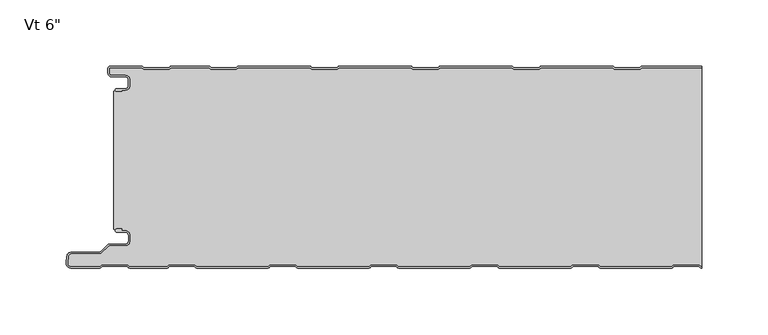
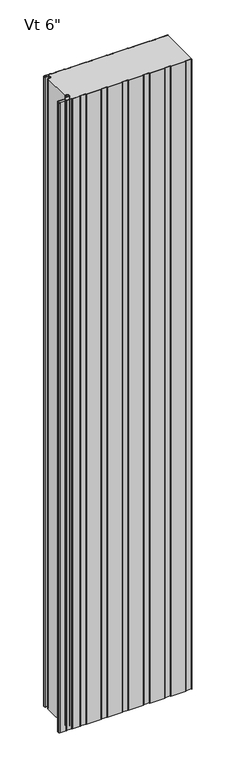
"""IFC4 building model written with IfcOpenShell, lengths in millimetres: plate geometry."""

from ifc_helpers import new_model, si_unit, point, frame, frame_2d, origin, origin_with_axes, place, context, project, spatial, polyline, circle_curve, trimmed, segment, composite_curve, outline, extrude, source, transform, mapped, element, save
from ifc_brep_helpers import plane_surface, cylinder_surface, revolved_surface, advanced_brep


def plate_f4efb7f9(model_context):
    return source(origin(), model_context, "Body", "SolidModel", [
        advanced_brep(
        [(-219.9686911, -17.0015243, 2400.0), (-220.9686883, -18.0015275, 2400.0), (-219.9686911, -19.0015188, 2400.0), (-215.9684874, -19.0015188, 2400.0), (-215.9684874, -18.0015243, 2400.0), (-213.2762776, -18.0015243, 2400.0), (-209.9762819, -14.7015286, 2400.0), (-209.9762819, -10.3015374, 2400.0), (-213.2762774, -7.0015419, 2400.0), (-223.6962563, -7.0015419, 2400.0), (-225.4662505, -5.2315477, 2400.0), (-225.4662505, -1.0, 2400.0), (-200.9659739, -1.0, 2400.0), (-199.5803313, -2.2002391, 2400.0), (-180.205165, -2.2002391, 2400.0), (-178.819532, -1.0000084, 2400.0), (-150.1661166, -1.0000084, 2400.0), (-148.7804837, -2.2002391, 2400.0), (-129.4053174, -2.2002391, 2400.0), (-128.0196844, -1.0000084, 2400.0), (-73.966269, -1.0000084, 2400.0), (-72.5806361, -2.2002391, 2400.0), (-53.2054698, -2.2002391, 2400.0), (-51.8198368, -1.0000084, 2400.0), (2.2335786, -1.0000084, 2400.0), (3.6192115, -2.2002391, 2400.0), (22.9943778, -2.2002391, 2400.0), (24.3800108, -1.0000084, 2400.0), (78.4334262, -1.0000084, 2400.0), (79.8190591, -2.2002391, 2400.0), (99.1942254, -2.2002391, 2400.0), (100.5798584, -1.0000084, 2400.0), (154.6332738, -1.0000084, 2400.0), (156.0189067, -2.2002391, 2400.0), (175.394073, -2.2002391, 2400.0), (176.779706, -1.0000084, 2400.0), (221.9999998, -1.0000084, 2400.0), (221.9999998, -8.4e-06, 2400.0), (176.9288571, -8.4e-06, 2400.0), (176.0122402, -0.3417969, 2400.0), (175.0211926, -1.2002391, 2400.0), (156.3917872, -1.2002391, 2400.0), (155.4007395, -0.3417969, 2400.0), (154.4841226, -8.4e-06, 2400.0), (100.7290095, -8.4e-06, 2400.0), (99.8123926, -0.3417969, 2400.0), (98.821345, -1.2002391, 2400.0), (80.1919396, -1.2002391, 2400.0), (79.2008919, -0.3417969, 2400.0), (78.284275, -8.4e-06, 2400.0), (24.5291619, -8.4e-06, 2400.0), (23.612545, -0.3417969, 2400.0), (22.6214974, -1.2002391, 2400.0), (3.992092, -1.2002391, 2400.0), (3.0010443, -0.3417969, 2400.0), (2.0844274, -8.4e-06, 2400.0), (-51.6706857, -8.4e-06, 2400.0), (-52.5873026, -0.3417969, 2400.0), (-53.5783502, -1.2002391, 2400.0), (-72.2077556, -1.2002391, 2400.0), (-73.1988033, -0.3417969, 2400.0), (-74.1154202, -8.4e-06, 2400.0), (-127.8705333, -8.4e-06, 2400.0), (-128.7871502, -0.3417969, 2400.0), (-129.7781978, -1.2002391, 2400.0), (-148.4076032, -1.2002391, 2400.0), (-149.3986509, -0.3417969, 2400.0), (-150.3152678, -8.4e-06, 2400.0), (-178.6703809, -8.4e-06, 2400.0), (-179.5869978, -0.3417969, 2400.0), (-180.5780454, -1.2002391, 2400.0), (-199.2074508, -1.2002391, 2400.0), (-200.1984985, -0.3417969, 2400.0), (-201.1152068, -8.4e-06, 2400.0), (-225.0662544, 0.0, 2400.0), (-226.4662505, -1.3999962, 2400.0), (-226.4662505, -5.2315477, 2400.0), (-223.6962563, -8.0015419, 2400.0), (-213.2762774, -8.0015419, 2400.0), (-210.9762819, -10.3015374, 2400.0), (-210.9762819, -14.7015286, 2400.0), (-213.2762776, -17.0015243, 2400.0), (-219.9686911, -17.0015243, 0.0), (-213.2762776, -17.0015243, 0.0), (-210.9762819, -14.7015286, 0.0), (-210.9762819, -10.3015374, 0.0), (-213.2762774, -8.0015419, 0.0), (-223.6962563, -8.0015419, 0.0), (-226.4662505, -5.2315477, 0.0), (-226.4662505, -1.3999962, 0.0), (-225.0662544, 0.0, 0.0), (-201.1151154, 0.0, 0.0), (-200.1984985, -0.3417969, 0.0), (-199.2074508, -1.2002391, 0.0), (-180.5780454, -1.2002391, 0.0), (-179.5869978, -0.3417969, 0.0), (-178.6703809, -8.4e-06, 0.0), (-150.3152678, -8.4e-06, 0.0), (-149.3986509, -0.3417969, 0.0), (-148.4076032, -1.2002391, 0.0), (-129.7781978, -1.2002391, 0.0), (-128.7871502, -0.3417969, 0.0), (-127.8705333, -8.4e-06, 0.0), (-74.1154202, -8.4e-06, 0.0), (-73.1988033, -0.3417969, 0.0), (-72.2077556, -1.2002391, 0.0), (-53.5783502, -1.2002391, 0.0), (-52.5873026, -0.3417969, 0.0), (-51.6706857, -8.4e-06, 0.0), (2.0844274, -8.4e-06, 0.0), (3.0010443, -0.3417969, 0.0), (3.992092, -1.2002391, 0.0), (22.6214974, -1.2002391, 0.0), (23.612545, -0.3417969, 0.0), (24.5291619, -8.4e-06, 0.0), (78.284275, -8.4e-06, 0.0), (79.2008919, -0.3417969, 0.0), (80.1919396, -1.2002391, 0.0), (98.821345, -1.2002391, 0.0), (99.8123926, -0.3417969, 0.0), (100.7290095, -8.4e-06, 0.0), (154.4841226, -8.4e-06, 0.0), (155.4007395, -0.3417969, 0.0), (156.3917872, -1.2002391, 0.0), (175.0211926, -1.2002391, 0.0), (176.0122402, -0.3417969, 0.0), (176.9288571, -8.4e-06, 0.0), (221.9999998, -8.4e-06, 0.0), (221.9999998, -1.0000084, 0.0), (176.779706, -1.0000084, 0.0), (175.394073, -2.2002391, 0.0), (156.0189067, -2.2002391, 0.0), (154.6332738, -1.0000084, 0.0), (100.5798584, -1.0000084, 0.0), (99.1942254, -2.2002391, 0.0), (79.8190591, -2.2002391, 0.0), (78.4334262, -1.0000084, 0.0), (24.3800108, -1.0000084, 0.0), (22.9943778, -2.2002391, 0.0), (3.6192115, -2.2002391, 0.0), (2.2335786, -1.0000084, 0.0), (-51.8198368, -1.0000084, 0.0), (-53.2054698, -2.2002391, 0.0), (-72.5806361, -2.2002391, 0.0), (-73.966269, -1.0000084, 0.0), (-128.0196844, -1.0000084, 0.0), (-129.4053174, -2.2002391, 0.0), (-148.7804837, -2.2002391, 0.0), (-150.1661166, -1.0000084, 0.0), (-178.819532, -1.0000084, 0.0), (-180.205165, -2.2002391, 0.0), (-199.5803313, -2.2002391, 0.0), (-200.9659739, -1.0, 0.0), (-225.4662505, -1.0, 0.0), (-225.4662505, -5.2315477, 0.0), (-223.6962563, -7.0015419, 0.0), (-213.2762774, -7.0015419, 0.0), (-209.9762819, -10.3015374, 0.0), (-209.9762819, -14.7015286, 0.0), (-213.2762776, -18.0015243, 0.0), (-215.9684874, -18.0015243, 0.0), (-215.9684874, -19.0015188, 0.0), (-219.9686911, -19.0015188, 0.0), (-220.9686883, -18.0015275, 0.0)],
        [
            (0, 1, circle_curve(frame((-219.9686911, -18.0015215, 2400.0), z_axis=(0.0, 0.0, 1.0), x_axis=(1.0, 0.0, 0.0)), 0.9999973)),
            (1, 2, circle_curve(frame((-219.9686911, -18.0015216, 2400.0), z_axis=(0.0, 0.0, 1.0), x_axis=(1.0, 0.0, 0.0)), 0.9999972)),
            (2, 3),
            (3, 4),
            (4, 5),
            (5, 6, circle_curve(frame((-213.2762776, -14.7015286, 2400.0), z_axis=(0.0, 0.0, 1.0), x_axis=(1.0, 0.0, 0.0)), 3.2999957)),
            (6, 7),
            (7, 8, circle_curve(frame((-213.2762774, -10.3015374, 2400.0), z_axis=(0.0, 0.0, 1.0), x_axis=(1.0, 0.0, 0.0)), 3.2999955)),
            (8, 9),
            (9, 10, circle_curve(frame((-223.6962563, -5.2315477, 2400.0), z_axis=(0.0, 0.0, -1.0), x_axis=(1.0, 0.0, 0.0)), 1.7699942)),
            (10, 11),
            (11, 12),
            (12, 13),
            (13, 14),
            (14, 15),
            (15, 16),
            (16, 17),
            (17, 18),
            (18, 19),
            (19, 20),
            (20, 21),
            (21, 22),
            (22, 23),
            (23, 24),
            (24, 25),
            (25, 26),
            (26, 27),
            (27, 28),
            (28, 29),
            (29, 30),
            (30, 31),
            (31, 32),
            (32, 33),
            (33, 34),
            (34, 35),
            (35, 36),
            (36, 37),
            (37, 38),
            (38, 39, circle_curve(frame((176.9288571, -1.4000056, 2400.0), z_axis=(0.0, 0.0, 1.0), x_axis=(1.0, 0.0, 0.0)), 1.3999972)),
            (39, 40),
            (40, 41),
            (41, 42),
            (42, 43, circle_curve(frame((154.4841226, -1.4000056, 2400.0), z_axis=(0.0, 0.0, 1.0), x_axis=(1.0, 0.0, 0.0)), 1.3999972)),
            (43, 44),
            (44, 45, circle_curve(frame((100.7290095, -1.4000056, 2400.0), z_axis=(0.0, 0.0, 1.0), x_axis=(1.0, 0.0, 0.0)), 1.3999972)),
            (45, 46),
            (46, 47),
            (47, 48),
            (48, 49, circle_curve(frame((78.284275, -1.4000056, 2400.0), z_axis=(0.0, 0.0, 1.0), x_axis=(1.0, 0.0, 0.0)), 1.3999972)),
            (49, 50),
            (50, 51, circle_curve(frame((24.5291619, -1.4000056, 2400.0), z_axis=(0.0, 0.0, 1.0), x_axis=(1.0, 0.0, 0.0)), 1.3999972)),
            (51, 52),
            (52, 53),
            (53, 54),
            (54, 55, circle_curve(frame((2.0844274, -1.4000056, 2400.0), z_axis=(0.0, 0.0, 1.0), x_axis=(1.0, 0.0, 0.0)), 1.3999972)),
            (55, 56),
            (56, 57, circle_curve(frame((-51.6706857, -1.4000056, 2400.0), z_axis=(0.0, 0.0, 1.0), x_axis=(1.0, 0.0, 0.0)), 1.3999972)),
            (57, 58),
            (58, 59),
            (59, 60),
            (60, 61, circle_curve(frame((-74.1154202, -1.4000056, 2400.0), z_axis=(0.0, 0.0, 1.0), x_axis=(1.0, 0.0, 0.0)), 1.3999972)),
            (61, 62),
            (62, 63, circle_curve(frame((-127.8705333, -1.4000056, 2400.0), z_axis=(0.0, 0.0, 1.0), x_axis=(1.0, 0.0, 0.0)), 1.3999972)),
            (63, 64),
            (64, 65),
            (65, 66),
            (66, 67, circle_curve(frame((-150.3152678, -1.4000056, 2400.0), z_axis=(0.0, 0.0, 1.0), x_axis=(1.0, 0.0, 0.0)), 1.3999972)),
            (67, 68),
            (68, 69, circle_curve(frame((-178.6703809, -1.4000056, 2400.0), z_axis=(0.0, 0.0, 1.0), x_axis=(1.0, 0.0, 0.0)), 1.3999972)),
            (69, 70),
            (70, 71),
            (71, 72),
            (72, 73, circle_curve(frame((-201.1151154, -1.4000056, 2400.0), z_axis=(0.0, 0.0, 1.0), x_axis=(1.0, 0.0, 0.0)), 1.3999972)),
            (73, 74),
            (74, 75, circle_curve(frame((-225.0662544, -1.3999962, 2400.0), z_axis=(0.0, 0.0, 1.0), x_axis=(1.0, 0.0, 0.0)), 1.3999962)),
            (75, 76),
            (76, 77, circle_curve(frame((-223.6962563, -5.2315477, 2400.0), z_axis=(0.0, 0.0, 1.0), x_axis=(1.0, 0.0, 0.0)), 2.7699942)),
            (77, 78),
            (78, 79, circle_curve(frame((-213.2762774, -10.3015374, 2400.0), z_axis=(0.0, 0.0, -1.0), x_axis=(1.0, 0.0, 0.0)), 2.2999955)),
            (79, 80),
            (80, 81, circle_curve(frame((-213.2762776, -14.7015286, 2400.0), z_axis=(0.0, 0.0, -1.0), x_axis=(1.0, 0.0, 0.0)), 2.2999957)),
            (81, 0),
            (82, 83),
            (83, 84, circle_curve(frame((-213.2762776, -14.7015286, 0.0), z_axis=(0.0, 0.0, 1.0), x_axis=(1.0, 0.0, 0.0)), 2.2999957)),
            (84, 85),
            (85, 86, circle_curve(frame((-213.2762774, -10.3015374, 0.0), z_axis=(0.0, 0.0, 1.0), x_axis=(1.0, 0.0, 0.0)), 2.2999955)),
            (86, 87),
            (87, 88, circle_curve(frame((-223.6962563, -5.2315477, 0.0), z_axis=(0.0, 0.0, -1.0), x_axis=(1.0, 0.0, 0.0)), 2.7699942)),
            (88, 89),
            (89, 90, circle_curve(frame((-225.0662544, -1.3999962, 0.0), z_axis=(0.0, 0.0, -1.0), x_axis=(1.0, 0.0, 0.0)), 1.3999962)),
            (90, 91),
            (91, 92, circle_curve(frame((-201.1151154, -1.4000056, 0.0), z_axis=(0.0, 0.0, -1.0), x_axis=(1.0, 0.0, 0.0)), 1.3999972)),
            (92, 93),
            (93, 94),
            (94, 95),
            (95, 96, circle_curve(frame((-178.6703809, -1.4000056, 0.0), z_axis=(0.0, 0.0, -1.0), x_axis=(1.0, 0.0, 0.0)), 1.3999972)),
            (96, 97),
            (97, 98, circle_curve(frame((-150.3152678, -1.4000056, 0.0), z_axis=(0.0, 0.0, -1.0), x_axis=(1.0, 0.0, 0.0)), 1.3999972)),
            (98, 99),
            (99, 100),
            (100, 101),
            (101, 102, circle_curve(frame((-127.8705333, -1.4000056, 0.0), z_axis=(0.0, 0.0, -1.0), x_axis=(1.0, 0.0, 0.0)), 1.3999972)),
            (102, 103),
            (103, 104, circle_curve(frame((-74.1154202, -1.4000056, 0.0), z_axis=(0.0, 0.0, -1.0), x_axis=(1.0, 0.0, 0.0)), 1.3999972)),
            (104, 105),
            (105, 106),
            (106, 107),
            (107, 108, circle_curve(frame((-51.6706857, -1.4000056, 0.0), z_axis=(0.0, 0.0, -1.0), x_axis=(1.0, 0.0, 0.0)), 1.3999972)),
            (108, 109),
            (109, 110, circle_curve(frame((2.0844274, -1.4000056, 0.0), z_axis=(0.0, 0.0, -1.0), x_axis=(1.0, 0.0, 0.0)), 1.3999972)),
            (110, 111),
            (111, 112),
            (112, 113),
            (113, 114, circle_curve(frame((24.5291619, -1.4000056, 0.0), z_axis=(0.0, 0.0, -1.0), x_axis=(1.0, 0.0, 0.0)), 1.3999972)),
            (114, 115),
            (115, 116, circle_curve(frame((78.284275, -1.4000056, 0.0), z_axis=(0.0, 0.0, -1.0), x_axis=(1.0, 0.0, 0.0)), 1.3999972)),
            (116, 117),
            (117, 118),
            (118, 119),
            (119, 120, circle_curve(frame((100.7290095, -1.4000056, 0.0), z_axis=(0.0, 0.0, -1.0), x_axis=(1.0, 0.0, 0.0)), 1.3999972)),
            (120, 121),
            (121, 122, circle_curve(frame((154.4841226, -1.4000056, 0.0), z_axis=(0.0, 0.0, -1.0), x_axis=(1.0, 0.0, 0.0)), 1.3999972)),
            (122, 123),
            (123, 124),
            (124, 125),
            (125, 126, circle_curve(frame((176.9288571, -1.4000056, 0.0), z_axis=(0.0, 0.0, -1.0), x_axis=(1.0, 0.0, 0.0)), 1.3999972)),
            (126, 127),
            (127, 128),
            (128, 129),
            (129, 130),
            (130, 131),
            (131, 132),
            (132, 133),
            (133, 134),
            (134, 135),
            (135, 136),
            (136, 137),
            (137, 138),
            (138, 139),
            (139, 140),
            (140, 141),
            (141, 142),
            (142, 143),
            (143, 144),
            (144, 145),
            (145, 146),
            (146, 147),
            (147, 148),
            (148, 149),
            (149, 150),
            (150, 151),
            (151, 152),
            (152, 153),
            (153, 154),
            (154, 155, circle_curve(frame((-223.6962563, -5.2315477, 0.0), z_axis=(0.0, 0.0, 1.0), x_axis=(1.0, 0.0, 0.0)), 1.7699942)),
            (155, 156),
            (156, 157, circle_curve(frame((-213.2762774, -10.3015374, 0.0), z_axis=(0.0, 0.0, -1.0), x_axis=(1.0, 0.0, 0.0)), 3.2999955)),
            (157, 158),
            (158, 159, circle_curve(frame((-213.2762776, -14.7015286, 0.0), z_axis=(0.0, 0.0, -1.0), x_axis=(1.0, 0.0, 0.0)), 3.2999957)),
            (159, 160),
            (160, 161),
            (161, 162),
            (162, 163, circle_curve(frame((-219.9686911, -18.0015216, 0.0), z_axis=(0.0, 0.0, -1.0), x_axis=(1.0, 0.0, 0.0)), 0.9999972)),
            (163, 82, circle_curve(frame((-219.9686911, -18.0015215, 0.0), z_axis=(0.0, 0.0, -1.0), x_axis=(1.0, 0.0, 0.0)), 0.9999973)),
            (36, 128),
            (127, 37),
            (81, 83),
            (82, 0),
            (80, 84),
            (79, 85),
            (78, 86),
            (77, 87),
            (76, 88),
            (75, 89),
            (74, 90),
            (73, 91),
            (72, 92),
            (71, 93),
            (70, 94),
            (69, 95),
            (68, 96),
            (67, 97),
            (66, 98),
            (65, 99),
            (64, 100),
            (63, 101),
            (62, 102),
            (61, 103),
            (60, 104),
            (59, 105),
            (58, 106),
            (57, 107),
            (56, 108),
            (55, 109),
            (54, 110),
            (53, 111),
            (52, 112),
            (51, 113),
            (50, 114),
            (49, 115),
            (48, 116),
            (47, 117),
            (46, 118),
            (45, 119),
            (44, 120),
            (43, 121),
            (42, 122),
            (41, 123),
            (40, 124),
            (39, 125),
            (38, 126),
            (35, 129),
            (34, 130),
            (33, 131),
            (32, 132),
            (31, 133),
            (30, 134),
            (29, 135),
            (28, 136),
            (27, 137),
            (26, 138),
            (25, 139),
            (24, 140),
            (23, 141),
            (22, 142),
            (21, 143),
            (20, 144),
            (19, 145),
            (18, 146),
            (17, 147),
            (16, 148),
            (15, 149),
            (14, 150),
            (13, 151),
            (12, 152),
            (11, 153),
            (10, 154),
            (9, 155),
            (8, 156),
            (7, 157),
            (6, 158),
            (5, 159),
            (4, 160),
            (3, 161),
            (2, 162),
            (1, 163),
        ],
        [
            plane_surface(frame((286.0000002, -8.4e-06, 2400.0), z_axis=(0.0, 0.0, 1.0), x_axis=(0.0, 1.0, 0.0))),
            plane_surface(frame((286.0000002, -8.4e-06, 0.0), z_axis=(0.0, 0.0, -1.0), x_axis=(0.0, 1.0, 0.0))),
            plane_surface(frame((221.9999998, -162.4000084, 2400.0), z_axis=(1.0, 0.0, 0.0), x_axis=(0.0, 0.0, -1.0))),
            plane_surface(frame((-219.9686911, -17.0015243, 2400.0), z_axis=(0.0, 1.0, 0.0), x_axis=(0.0, 0.0, -1.0))),
            revolved_surface(polyline([(-210.97628189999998, -14.7015286, 0.0), (-210.97628189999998, -14.7015286, 2400.0)]), (-213.2762776, -14.7015286, 2400.0), (0.0, 0.0, -1.0)),
            plane_surface(frame((-210.9762819, -14.7015286, 2400.0), z_axis=(-1.0, 0.0, 0.0), x_axis=(0.0, 0.0, -1.0))),
            revolved_surface(polyline([(-210.9762819, -10.3015374, 0.0), (-210.9762819, -10.3015374, 2400.0)]), (-213.2762774, -10.3015374, 2400.0), (0.0, 0.0, -1.0)),
            plane_surface(frame((-213.2762774, -8.0015419, 2400.0), z_axis=(0.0, -1.0, 0.0), x_axis=(0.0, 0.0, -1.0))),
            cylinder_surface(frame((-223.6962563, -5.2315477, 2400.0), z_axis=(0.0, 0.0, 1.0), x_axis=(1.0, 0.0, 0.0)), 2.7699942),
            plane_surface(frame((-226.4662505, -5.2315477, 2400.0), z_axis=(-1.0, 0.0, 0.0), x_axis=(0.0, 0.0, -1.0))),
            cylinder_surface(frame((-225.0662544, -1.3999962, 2400.0), z_axis=(0.0, 0.0, 1.0), x_axis=(1.0, 0.0, 0.0)), 1.3999962),
            plane_surface(frame((-225.0662544, 0.0, 2400.0), z_axis=(0.0, 1.0, 0.0), x_axis=(0.0, 0.0, -1.0))),
            cylinder_surface(frame((-201.1151154, -1.4000056, 2400.0), z_axis=(0.0, 0.0, 1.0), x_axis=(1.0, 0.0, 0.0)), 1.3999972),
            plane_surface(frame((-200.1984985, -0.3417969, 2400.0), z_axis=(0.6547276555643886, 0.755864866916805, 0.0), x_axis=(0.0, 0.0, -1.0))),
            plane_surface(frame((-189.8927481, -1.2002391, 2400.0), z_axis=(0.0, 1.0, 0.0), x_axis=(0.0, 0.0, -1.0))),
            plane_surface(frame((-180.5780454, -1.2002391, 2400.0), z_axis=(-0.6547276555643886, 0.755864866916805, 0.0), x_axis=(0.0, 0.0, -1.0))),
            cylinder_surface(frame((-178.6703809, -1.4000056, 2400.0), z_axis=(0.0, 0.0, 1.0), x_axis=(1.0, 0.0, 0.0)), 1.3999972),
            plane_surface(frame((-178.6703809, -8.4e-06, 2400.0), z_axis=(0.0, 1.0, 0.0), x_axis=(0.0, 0.0, -1.0))),
            cylinder_surface(frame((-150.3152678, -1.4000056, 2400.0), z_axis=(0.0, 0.0, 1.0), x_axis=(1.0, 0.0, 0.0)), 1.3999972),
            plane_surface(frame((-149.3986509, -0.3417969, 2400.0), z_axis=(0.6547276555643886, 0.755864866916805, 0.0), x_axis=(0.0, 0.0, -1.0))),
            plane_surface(frame((-139.0929005, -1.2002391, 2400.0), z_axis=(0.0, 1.0, 0.0), x_axis=(0.0, 0.0, -1.0))),
            plane_surface(frame((-129.7781978, -1.2002391, 2400.0), z_axis=(-0.6547276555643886, 0.755864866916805, 0.0), x_axis=(0.0, 0.0, -1.0))),
            cylinder_surface(frame((-127.8705333, -1.4000056, 2400.0), z_axis=(0.0, 0.0, 1.0), x_axis=(1.0, 0.0, 0.0)), 1.3999972),
            plane_surface(frame((-127.8705333, -8.4e-06, 2400.0), z_axis=(0.0, 1.0, 0.0), x_axis=(0.0, 0.0, -1.0))),
            cylinder_surface(frame((-74.1154202, -1.4000056, 2400.0), z_axis=(0.0, 0.0, 1.0), x_axis=(1.0, 0.0, 0.0)), 1.3999972),
            plane_surface(frame((-73.1988033, -0.3417969, 2400.0), z_axis=(0.6547276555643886, 0.755864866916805, 0.0), x_axis=(0.0, 0.0, -1.0))),
            plane_surface(frame((-62.8930529, -1.2002391, 2400.0), z_axis=(0.0, 1.0, 0.0), x_axis=(0.0, 0.0, -1.0))),
            plane_surface(frame((-53.5783502, -1.2002391, 2400.0), z_axis=(-0.6547276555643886, 0.755864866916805, 0.0), x_axis=(0.0, 0.0, -1.0))),
            cylinder_surface(frame((-51.6706857, -1.4000056, 2400.0), z_axis=(0.0, 0.0, 1.0), x_axis=(1.0, 0.0, 0.0)), 1.3999972),
            plane_surface(frame((-51.6706857, -8.4e-06, 2400.0), z_axis=(0.0, 1.0, 0.0), x_axis=(0.0, 0.0, -1.0))),
            cylinder_surface(frame((2.0844274, -1.4000056, 2400.0), z_axis=(0.0, 0.0, 1.0), x_axis=(1.0, 0.0, 0.0)), 1.3999972),
            plane_surface(frame((3.0010443, -0.3417969, 2400.0), z_axis=(0.6547276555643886, 0.755864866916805, 0.0), x_axis=(0.0, 0.0, -1.0))),
            plane_surface(frame((13.3067947, -1.2002391, 2400.0), z_axis=(0.0, 1.0, 0.0), x_axis=(0.0, 0.0, -1.0))),
            plane_surface(frame((22.6214974, -1.2002391, 2400.0), z_axis=(-0.6547276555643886, 0.755864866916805, 0.0), x_axis=(0.0, 0.0, -1.0))),
            cylinder_surface(frame((24.5291619, -1.4000056, 2400.0), z_axis=(0.0, 0.0, 1.0), x_axis=(1.0, 0.0, 0.0)), 1.3999972),
            plane_surface(frame((24.5291619, -8.4e-06, 2400.0), z_axis=(0.0, 1.0, 0.0), x_axis=(0.0, 0.0, -1.0))),
            cylinder_surface(frame((78.284275, -1.4000056, 2400.0), z_axis=(0.0, 0.0, 1.0), x_axis=(1.0, 0.0, 0.0)), 1.3999972),
            plane_surface(frame((79.2008919, -0.3417969, 2400.0), z_axis=(0.6547276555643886, 0.755864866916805, 0.0), x_axis=(0.0, 0.0, -1.0))),
            plane_surface(frame((89.5066423, -1.2002391, 2400.0), z_axis=(0.0, 1.0, 0.0), x_axis=(0.0, 0.0, -1.0))),
            plane_surface(frame((98.821345, -1.2002391, 2400.0), z_axis=(-0.6547276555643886, 0.755864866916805, 0.0), x_axis=(0.0, 0.0, -1.0))),
            cylinder_surface(frame((100.7290095, -1.4000056, 2400.0), z_axis=(0.0, 0.0, 1.0), x_axis=(1.0, 0.0, 0.0)), 1.3999972),
            plane_surface(frame((100.7290095, -8.4e-06, 2400.0), z_axis=(0.0, 1.0, 0.0), x_axis=(0.0, 0.0, -1.0))),
            cylinder_surface(frame((154.4841226, -1.4000056, 2400.0), z_axis=(0.0, 0.0, 1.0), x_axis=(1.0, 0.0, 0.0)), 1.3999972),
            plane_surface(frame((155.4007395, -0.3417969, 2400.0), z_axis=(0.6547276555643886, 0.755864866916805, 0.0), x_axis=(0.0, 0.0, -1.0))),
            plane_surface(frame((165.7064899, -1.2002391, 2400.0), z_axis=(0.0, 1.0, 0.0), x_axis=(0.0, 0.0, -1.0))),
            plane_surface(frame((175.0211926, -1.2002391, 2400.0), z_axis=(-0.6547276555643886, 0.755864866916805, 0.0), x_axis=(0.0, 0.0, -1.0))),
            cylinder_surface(frame((176.9288571, -1.4000056, 2400.0), z_axis=(0.0, 0.0, 1.0), x_axis=(1.0, 0.0, 0.0)), 1.3999972),
            plane_surface(frame((176.9288571, -8.4e-06, 2400.0), z_axis=(0.0, 1.0, 0.0), x_axis=(0.0, 0.0, -1.0))),
            plane_surface(frame((230.8331214, -1.0000084, 2400.0), z_axis=(0.0, -1.0, 0.0), x_axis=(0.0, 0.0, -1.0))),
            plane_surface(frame((176.779706, -1.0000084, 2400.0), z_axis=(0.6547276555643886, -0.755864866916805, 0.0), x_axis=(0.0, 0.0, -1.0))),
            plane_surface(frame((175.394073, -2.2002391, 2400.0), z_axis=(0.0, -1.0, 0.0), x_axis=(0.0, 0.0, -1.0))),
            plane_surface(frame((156.0189067, -2.2002391, 2400.0), z_axis=(-0.6547276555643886, -0.755864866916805, 0.0), x_axis=(0.0, 0.0, -1.0))),
            plane_surface(frame((154.6332738, -1.0000084, 2400.0), z_axis=(0.0, -1.0, 0.0), x_axis=(0.0, 0.0, -1.0))),
            plane_surface(frame((100.5798584, -1.0000084, 2400.0), z_axis=(0.6547276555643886, -0.755864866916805, 0.0), x_axis=(0.0, 0.0, -1.0))),
            plane_surface(frame((99.1942254, -2.2002391, 2400.0), z_axis=(0.0, -1.0, 0.0), x_axis=(0.0, 0.0, -1.0))),
            plane_surface(frame((79.8190591, -2.2002391, 2400.0), z_axis=(-0.6547276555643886, -0.755864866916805, 0.0), x_axis=(0.0, 0.0, -1.0))),
            plane_surface(frame((78.4334262, -1.0000084, 2400.0), z_axis=(0.0, -1.0, 0.0), x_axis=(0.0, 0.0, -1.0))),
            plane_surface(frame((24.3800108, -1.0000084, 2400.0), z_axis=(0.6547276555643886, -0.755864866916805, 0.0), x_axis=(0.0, 0.0, -1.0))),
            plane_surface(frame((22.9943778, -2.2002391, 2400.0), z_axis=(0.0, -1.0, 0.0), x_axis=(0.0, 0.0, -1.0))),
            plane_surface(frame((3.6192115, -2.2002391, 2400.0), z_axis=(-0.6547276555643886, -0.755864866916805, 0.0), x_axis=(0.0, 0.0, -1.0))),
            plane_surface(frame((2.2335786, -1.0000084, 2400.0), z_axis=(0.0, -1.0, 0.0), x_axis=(0.0, 0.0, -1.0))),
            plane_surface(frame((-51.8198368, -1.0000084, 2400.0), z_axis=(0.6547276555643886, -0.755864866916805, 0.0), x_axis=(0.0, 0.0, -1.0))),
            plane_surface(frame((-53.2054698, -2.2002391, 2400.0), z_axis=(0.0, -1.0, 0.0), x_axis=(0.0, 0.0, -1.0))),
            plane_surface(frame((-72.5806361, -2.2002391, 2400.0), z_axis=(-0.6547276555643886, -0.755864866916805, 0.0), x_axis=(0.0, 0.0, -1.0))),
            plane_surface(frame((-73.966269, -1.0000084, 2400.0), z_axis=(0.0, -1.0, 0.0), x_axis=(0.0, 0.0, -1.0))),
            plane_surface(frame((-128.0196844, -1.0000084, 2400.0), z_axis=(0.6547276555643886, -0.755864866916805, 0.0), x_axis=(0.0, 0.0, -1.0))),
            plane_surface(frame((-129.4053174, -2.2002391, 2400.0), z_axis=(0.0, -1.0, 0.0), x_axis=(0.0, 0.0, -1.0))),
            plane_surface(frame((-148.7804837, -2.2002391, 2400.0), z_axis=(-0.6547276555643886, -0.755864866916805, 0.0), x_axis=(0.0, 0.0, -1.0))),
            plane_surface(frame((-150.1661166, -1.0000084, 2400.0), z_axis=(0.0, -1.0, 0.0), x_axis=(0.0, 0.0, -1.0))),
            plane_surface(frame((-178.819532, -1.0000084, 2400.0), z_axis=(0.6547276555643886, -0.755864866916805, 0.0), x_axis=(0.0, 0.0, -1.0))),
            plane_surface(frame((-180.205165, -2.2002391, 2400.0), z_axis=(0.0, -1.0, 0.0), x_axis=(0.0, 0.0, -1.0))),
            plane_surface(frame((-199.5803313, -2.2002391, 2400.0), z_axis=(-0.6547276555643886, -0.755864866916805, 0.0), x_axis=(0.0, 0.0, -1.0))),
            plane_surface(frame((-200.9659739, -1.0, 2400.0), z_axis=(0.0, -1.0, 0.0), x_axis=(0.0, 0.0, -1.0))),
            plane_surface(frame((-225.4662505, -1.0, 2400.0), z_axis=(1.0, 0.0, 0.0), x_axis=(0.0, 0.0, -1.0))),
            revolved_surface(polyline([(-221.92626209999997, -5.2315477, 0.0), (-221.92626209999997, -5.2315477, 2400.0)]), (-223.6962563, -5.2315477, 2400.0), (0.0, 0.0, -1.0)),
            plane_surface(frame((-223.6962563, -7.0015419, 2400.0), z_axis=(0.0, 1.0, 0.0), x_axis=(0.0, 0.0, -1.0))),
            cylinder_surface(frame((-213.2762774, -10.3015374, 2400.0), z_axis=(0.0, 0.0, 1.0), x_axis=(1.0, 0.0, 0.0)), 3.2999955),
            plane_surface(frame((-209.9762819, -10.3015374, 2400.0), z_axis=(1.0, 0.0, 0.0), x_axis=(0.0, 0.0, -1.0))),
            cylinder_surface(frame((-213.2762776, -14.7015286, 2400.0), z_axis=(0.0, 0.0, 1.0), x_axis=(1.0, 0.0, 0.0)), 3.2999957),
            plane_surface(frame((-213.2762776, -18.0015243, 2400.0), z_axis=(0.0, -1.0, 0.0), x_axis=(0.0, 0.0, -1.0))),
            plane_surface(frame((-215.9684874, -18.0015243, 2400.0), z_axis=(1.0, 0.0, 0.0), x_axis=(0.0, 0.0, -1.0))),
            plane_surface(frame((-215.9684874, -19.0015188, 2400.0), z_axis=(0.0, -1.0, 0.0), x_axis=(0.0, 0.0, -1.0))),
            cylinder_surface(frame((-219.9686911, -18.0015216, 2400.0), z_axis=(0.0, 0.0, 1.0), x_axis=(1.0, 0.0, 0.0)), 0.9999972),
            cylinder_surface(frame((-219.9686911, -18.0015215, 2400.0), z_axis=(0.0, 0.0, 1.0), x_axis=(1.0, 0.0, 0.0)), 0.9999973),
        ],
        [
            (0, [[1, 2, 3, 4, 5, 6, 7, 8, 9, 10, 11, 12, 13, 14, 15, 16, 17, 18, 19, 20, 21, 22, 23, 24, 25, 26, 27, 28, 29, 30, 31, 32, 33, 34, 35, 36, 37, 38, 39, 40, 41, 42, 43, 44, 45, 46, 47, 48, 49, 50, 51, 52, 53, 54, 55, 56, 57, 58, 59, 60, 61, 62, 63, 64, 65, 66, 67, 68, 69, 70, 71, 72, 73, 74, 75, 76, 77, 78, 79, 80, 81, 82]]),
            (1, [[83, 84, 85, 86, 87, 88, 89, 90, 91, 92, 93, 94, 95, 96, 97, 98, 99, 100, 101, 102, 103, 104, 105, 106, 107, 108, 109, 110, 111, 112, 113, 114, 115, 116, 117, 118, 119, 120, 121, 122, 123, 124, 125, 126, 127, 128, 129, 130, 131, 132, 133, 134, 135, 136, 137, 138, 139, 140, 141, 142, 143, 144, 145, 146, 147, 148, 149, 150, 151, 152, 153, 154, 155, 156, 157, 158, 159, 160, 161, 162, 163, 164]]),
            (2, [[165, -128, 166, -37]]),
            (3, [[167, -83, 168, -82]]),
            (4, [[169, -84, -167, -81]]),
            (5, [[170, -85, -169, -80]]),
            (6, [[171, -86, -170, -79]]),
            (7, [[172, -87, -171, -78]]),
            (8, [[173, -88, -172, -77]]),
            (9, [[174, -89, -173, -76]]),
            (10, [[175, -90, -174, -75]]),
            (11, [[176, -91, -175, -74]]),
            (12, [[177, -92, -176, -73]]),
            (13, [[178, -93, -177, -72]]),
            (14, [[179, -94, -178, -71]]),
            (15, [[180, -95, -179, -70]]),
            (16, [[181, -96, -180, -69]]),
            (17, [[182, -97, -181, -68]]),
            (18, [[183, -98, -182, -67]]),
            (19, [[184, -99, -183, -66]]),
            (20, [[185, -100, -184, -65]]),
            (21, [[186, -101, -185, -64]]),
            (22, [[187, -102, -186, -63]]),
            (23, [[188, -103, -187, -62]]),
            (24, [[189, -104, -188, -61]]),
            (25, [[190, -105, -189, -60]]),
            (26, [[191, -106, -190, -59]]),
            (27, [[192, -107, -191, -58]]),
            (28, [[193, -108, -192, -57]]),
            (29, [[194, -109, -193, -56]]),
            (30, [[195, -110, -194, -55]]),
            (31, [[196, -111, -195, -54]]),
            (32, [[197, -112, -196, -53]]),
            (33, [[198, -113, -197, -52]]),
            (34, [[199, -114, -198, -51]]),
            (35, [[200, -115, -199, -50]]),
            (36, [[201, -116, -200, -49]]),
            (37, [[202, -117, -201, -48]]),
            (38, [[203, -118, -202, -47]]),
            (39, [[204, -119, -203, -46]]),
            (40, [[205, -120, -204, -45]]),
            (41, [[206, -121, -205, -44]]),
            (42, [[207, -122, -206, -43]]),
            (43, [[208, -123, -207, -42]]),
            (44, [[209, -124, -208, -41]]),
            (45, [[210, -125, -209, -40]]),
            (46, [[211, -126, -210, -39]]),
            (47, [[-38, -166, -127, -211]]),
            (48, [[-129, -165, -36, 212]]),
            (49, [[213, -130, -212, -35]]),
            (50, [[214, -131, -213, -34]]),
            (51, [[215, -132, -214, -33]]),
            (52, [[216, -133, -215, -32]]),
            (53, [[217, -134, -216, -31]]),
            (54, [[218, -135, -217, -30]]),
            (55, [[219, -136, -218, -29]]),
            (56, [[220, -137, -219, -28]]),
            (57, [[221, -138, -220, -27]]),
            (58, [[222, -139, -221, -26]]),
            (59, [[223, -140, -222, -25]]),
            (60, [[224, -141, -223, -24]]),
            (61, [[225, -142, -224, -23]]),
            (62, [[226, -143, -225, -22]]),
            (63, [[227, -144, -226, -21]]),
            (64, [[228, -145, -227, -20]]),
            (65, [[229, -146, -228, -19]]),
            (66, [[230, -147, -229, -18]]),
            (67, [[231, -148, -230, -17]]),
            (68, [[232, -149, -231, -16]]),
            (69, [[233, -150, -232, -15]]),
            (70, [[234, -151, -233, -14]]),
            (71, [[235, -152, -234, -13]]),
            (72, [[236, -153, -235, -12]]),
            (73, [[237, -154, -236, -11]]),
            (74, [[238, -155, -237, -10]]),
            (75, [[239, -156, -238, -9]]),
            (76, [[240, -157, -239, -8]]),
            (77, [[241, -158, -240, -7]]),
            (78, [[242, -159, -241, -6]]),
            (79, [[243, -160, -242, -5]]),
            (80, [[244, -161, -243, -4]]),
            (81, [[245, -162, -244, -3]]),
            (82, [[246, -163, -245, -2]]),
            (83, [[-168, -164, -246, -1]]),
        ],
    ),
        extrude(outline(composite_curve([segment(polyline([(-232.6415932, -152.3997462), (-254.4521175, -152.3997462)]), True, "CONTINUOUS"), segment(trimmed(circle_curve(frame_2d((-254.4521175, -148.8295069)), 3.5702393), [point((-254.4521175, -152.3997462))], [point((-258.0087619, -148.5182365))], False, "CARTESIAN"), True, "CONTINUOUS"), segment(polyline([(-258.0087619, -148.5182365), (-257.5690674, -143.4941899)]), True, "CONTINUOUS"), segment(trimmed(circle_curve(frame_2d((-253.9198391, -144.104991)), 3.6999926), [point((-257.5690674, -143.4941899))], [point((-253.9198391, -140.4049984))], False, "CARTESIAN"), True, "CONTINUOUS"), segment(polyline([(-253.9198391, -140.4049984), (-232.7773995, -140.4049984)]), True, "CONTINUOUS"), segment(trimmed(circle_curve(frame_2d((-232.7773995, -139.105001)), 1.2999974), [point((-232.7773995, -140.4049984))], [point((-231.8581626, -140.024238))], True, "CARTESIAN"), True, "CONTINUOUS"), segment(polyline([(-231.8581626, -140.024238), (-227.0297451, -135.1958205)]), True, "CONTINUOUS"), segment(trimmed(circle_curve(frame_2d((-225.1205606, -137.105005)), 2.6999946), [point((-227.0297451, -135.1958205))], [point((-225.1205606, -134.4050104))], False, "CARTESIAN"), True, "CONTINUOUS"), segment(polyline([(-225.1205606, -134.4050104), (-213.3096715, -134.4050104)]), True, "CONTINUOUS"), segment(trimmed(circle_curve(frame_2d((-213.3096715, -132.0550151)), 2.3499953), [point((-213.3096715, -134.4050104))], [point((-210.9596762, -132.0550151))], True, "CARTESIAN"), True, "CONTINUOUS"), segment(polyline([(-210.9596762, -132.0550151), (-210.9596762, -127.6550239)]), True, "CONTINUOUS"), segment(trimmed(circle_curve(frame_2d((-213.3096715, -127.6550239)), 2.3499953), [point((-210.9596762, -127.6550239))], [point((-213.3096715, -125.3050286))], True, "CARTESIAN"), True, "CONTINUOUS"), segment(polyline([(-213.3096715, -125.3050286), (-219.8289777, -125.3050286)]), True, "CONTINUOUS"), segment(trimmed(circle_curve(frame_2d((-219.7686906, -124.1065463)), 1.1999976), [point((-219.8289777, -125.3050286))], [point((-220.9683, -124.0760244))], False, "CARTESIAN"), True, "CONTINUOUS"), segment(trimmed(circle_curve(frame_2d((-219.7686906, -124.1065463)), 1.1999976), [point((-220.9683, -124.0760244))], [point((-219.767176, -122.9065497))], False, "CARTESIAN"), True, "CONTINUOUS"), segment(polyline([(-219.767176, -122.9065497), (-216.0087826, -122.9065497), (-216.0087826, -124.3050286), (-213.3096715, -124.3050286)]), True, "CONTINUOUS"), segment(trimmed(circle_curve(frame_2d((-213.3096715, -127.6550239)), 3.3499953), [point((-213.3096715, -124.3050286))], [point((-209.9596762, -127.6550239))], False, "CARTESIAN"), True, "CONTINUOUS"), segment(polyline([(-209.9596762, -127.6550239), (-209.9596762, -132.0550151)]), True, "CONTINUOUS"), segment(trimmed(circle_curve(frame_2d((-213.3096715, -132.0550151)), 3.3499953), [point((-209.9596762, -132.0550151))], [point((-213.3096715, -135.4050104))], False, "CARTESIAN"), True, "CONTINUOUS"), segment(polyline([(-213.3096715, -135.4050104), (-225.1205606, -135.4050104)]), True, "CONTINUOUS"), segment(trimmed(circle_curve(frame_2d((-225.1205606, -137.105005)), 1.6999946), [point((-225.1205606, -135.4050104))], [point((-226.3226383, -135.9029273))], True, "CARTESIAN"), True, "CONTINUOUS"), segment(polyline([(-226.3226383, -135.9029273), (-231.8247094, -141.4049984), (-253.9198391, -141.4049984)]), True, "CONTINUOUS"), segment(trimmed(circle_curve(frame_2d((-253.9198391, -144.104991)), 2.6999926), [point((-253.9198391, -141.4049984))], [point((-256.5765707, -143.6236004))], True, "CARTESIAN"), True, "CONTINUOUS"), segment(polyline([(-256.5765707, -143.6236004), (-257.0125697, -148.6054212)]), True, "CONTINUOUS"), segment(trimmed(circle_curve(frame_2d((-254.4521175, -148.8295069)), 2.5702393), [point((-257.0125697, -148.6054212))], [point((-254.4521175, -151.3997462))], True, "CARTESIAN"), True, "CONTINUOUS"), segment(polyline([(-254.4521175, -151.3997462), (-232.479096, -151.3997462), (-231.2791275, -150.1997777), (-211.559715, -150.1997777), (-210.3594843, -151.4000084), (-181.6793525, -151.4000084), (-180.4791218, -150.1997777), (-160.7597093, -150.1997777), (-159.5594786, -151.4000084), (-105.4793468, -151.4000084), (-104.2791161, -150.1997777), (-84.5597036, -150.1997777), (-83.3594729, -151.4000084), (-29.2793411, -151.4000084), (-28.0791104, -150.1997777), (-8.3596979, -150.1997777), (-7.1594672, -151.4000084), (46.9206646, -151.4000084), (48.1208953, -150.1997777), (67.8403078, -150.1997777), (69.0405385, -151.4000084), (123.1206703, -151.4000084), (124.320901, -150.1997777), (144.0403135, -150.1997777), (145.2405442, -151.4000084), (199.3206759, -151.4000084), (200.5209066, -150.1997777), (220.2403192, -150.1997777), (221.4405499, -151.4000084), (221.9999998, -151.4000084), (221.9999998, -152.4000084), (221.6098268, -152.4000084)]), True, "CONTINUOUS"), segment(trimmed(circle_curve(frame_2d((221.6021734, -151.0000321)), 1.3999972), [point((221.6098268, -152.4000084))], [point((220.5581226, -151.9327432))], False, "CARTESIAN"), True, "CONTINUOUS"), segment(polyline([(220.5581226, -151.9327432), (219.825157, -151.1997777), (200.9344878, -151.1997777), (200.2015432, -151.9327223)]), True, "CONTINUOUS"), segment(trimmed(circle_curve(frame_2d((199.1574924, -151.0000112)), 1.3999972), [point((200.2015432, -151.9327223))], [point((199.1574924, -152.4000084))], False, "CARTESIAN"), True, "CONTINUOUS"), segment(polyline([(199.1574924, -152.4000084), (145.4099792, -152.4000084)]), True, "CONTINUOUS"), segment(trimmed(circle_curve(frame_2d((145.4023258, -151.0000321)), 1.3999972), [point((145.4099792, -152.4000084))], [point((144.358275, -151.9327432))], False, "CARTESIAN"), True, "CONTINUOUS"), segment(polyline([(144.358275, -151.9327432), (143.6253094, -151.1997777), (124.7346402, -151.1997777), (124.0016956, -151.9327223)]), True, "CONTINUOUS"), segment(trimmed(circle_curve(frame_2d((122.9576448, -151.0000112)), 1.3999972), [point((124.0016956, -151.9327223))], [point((122.9576448, -152.4000084))], False, "CARTESIAN"), True, "CONTINUOUS"), segment(polyline([(122.9576448, -152.4000084), (69.2101316, -152.4000084)]), True, "CONTINUOUS"), segment(trimmed(circle_curve(frame_2d((69.2024782, -151.0000321)), 1.3999972), [point((69.2101316, -152.4000084))], [point((68.1584274, -151.9327432))], False, "CARTESIAN"), True, "CONTINUOUS"), segment(polyline([(68.1584274, -151.9327432), (67.4254618, -151.1997777), (48.5347926, -151.1997777), (47.801848, -151.9327223)]), True, "CONTINUOUS"), segment(trimmed(circle_curve(frame_2d((46.7577972, -151.0000112)), 1.3999972), [point((47.801848, -151.9327223))], [point((46.7577972, -152.4000084))], False, "CARTESIAN"), True, "CONTINUOUS"), segment(polyline([(46.7577972, -152.4000084), (-6.989716, -152.4000084)]), True, "CONTINUOUS"), segment(trimmed(circle_curve(frame_2d((-6.9973694, -151.0000321)), 1.3999972), [point((-6.989716, -152.4000084))], [point((-8.0414202, -151.9327432))], False, "CARTESIAN"), True, "CONTINUOUS"), segment(polyline([(-8.0414202, -151.9327432), (-8.7743858, -151.1997777), (-27.665055, -151.1997777), (-28.3979996, -151.9327223)]), True, "CONTINUOUS"), segment(trimmed(circle_curve(frame_2d((-29.4420504, -151.0000112)), 1.3999972), [point((-28.3979996, -151.9327223))], [point((-29.4420504, -152.4000084))], False, "CARTESIAN"), True, "CONTINUOUS"), segment(polyline([(-29.4420504, -152.4000084), (-83.1895636, -152.4000084)]), True, "CONTINUOUS"), segment(trimmed(circle_curve(frame_2d((-83.197217, -151.0000321)), 1.3999972), [point((-83.1895636, -152.4000084))], [point((-84.2412678, -151.9327432))], False, "CARTESIAN"), True, "CONTINUOUS"), segment(polyline([(-84.2412678, -151.9327432), (-84.9742334, -151.1997777), (-103.8649026, -151.1997777), (-104.5978472, -151.9327223)]), True, "CONTINUOUS"), segment(trimmed(circle_curve(frame_2d((-105.641898, -151.0000112)), 1.3999972), [point((-104.5978472, -151.9327223))], [point((-105.641898, -152.4000084))], False, "CARTESIAN"), True, "CONTINUOUS"), segment(polyline([(-105.641898, -152.4000084), (-159.3894112, -152.4000084)]), True, "CONTINUOUS"), segment(trimmed(circle_curve(frame_2d((-159.3970646, -151.0000321)), 1.3999972), [point((-159.3894112, -152.4000084))], [point((-160.4411154, -151.9327432))], False, "CARTESIAN"), True, "CONTINUOUS"), segment(polyline([(-160.4411154, -151.9327432), (-161.174081, -151.1997777), (-180.0647502, -151.1997777), (-180.7976948, -151.9327223)]), True, "CONTINUOUS"), segment(trimmed(circle_curve(frame_2d((-181.8417456, -151.0000112)), 1.3999972), [point((-180.7976948, -151.9327223))], [point((-181.8417456, -152.4000084))], False, "CARTESIAN"), True, "CONTINUOUS"), segment(polyline([(-181.8417456, -152.4000084), (-210.1892588, -152.4000084)]), True, "CONTINUOUS"), segment(trimmed(circle_curve(frame_2d((-210.1969122, -151.0000321)), 1.3999972), [point((-210.1892588, -152.4000084))], [point((-211.240963, -151.9327432))], False, "CARTESIAN"), True, "CONTINUOUS"), segment(polyline([(-211.240963, -151.9327432), (-211.9739286, -151.1997777), (-230.8649139, -151.1997777), (-231.5976402, -151.9325039)]), True, "CONTINUOUS"), segment(trimmed(circle_curve(frame_2d((-232.6415932, -150.9998801)), 1.3998661), [point((-231.5976402, -151.9325039))], [point((-232.6415932, -152.3997462))], False, "CARTESIAN"), True, "CONTINUOUS")], self_intersect=False)), origin_with_axes(), (0.0, 0.0, 1.0), 2400.0),
        extrude(outline(composite_curve([segment(polyline([(-220.9683, -124.0760244), (-221.9999998, -123.0443246), (-221.9999998, -19.0328392), (-220.9686882, -18.0015275)]), True, "CONTINUOUS"), segment(trimmed(circle_curve(frame_2d((-219.968691, -18.0015216)), 0.9999972), [point((-220.9686882, -18.0015275))], [point((-219.968691, -19.0015188))], True, "CARTESIAN"), True, "CONTINUOUS"), segment(polyline([(-219.968691, -19.0015188), (-215.9684874, -19.0015188), (-215.9684874, -18.0015243), (-213.2762776, -18.0015243)]), True, "CONTINUOUS"), segment(trimmed(circle_curve(frame_2d((-213.2762776, -14.7015286)), 3.2999957), [point((-213.2762776, -18.0015243))], [point((-209.9762819, -14.7015286))], True, "CARTESIAN"), True, "CONTINUOUS"), segment(polyline([(-209.9762819, -14.7015286), (-209.9762819, -10.3015374)]), True, "CONTINUOUS"), segment(trimmed(circle_curve(frame_2d((-213.2762777, -10.3015374)), 3.2999959), [point((-209.9762819, -10.3015374))], [point((-213.2762777, -7.0015415))], True, "CARTESIAN"), True, "CONTINUOUS"), segment(polyline([(-213.2762777, -7.0015415), (-223.6962563, -7.0015415)]), True, "CONTINUOUS"), segment(trimmed(circle_curve(frame_2d((-223.6962563, -5.2315473)), 1.7699942), [point((-223.6962563, -7.0015415))], [point((-225.4662505, -5.2315473))], False, "CARTESIAN"), True, "CONTINUOUS"), segment(polyline([(-225.4662505, -5.2315473), (-225.4662505, -1.0), (-200.9659738, -1.0), (-199.5803312, -2.2002391), (-180.2051649, -2.2002391), (-178.819532, -1.0000084), (-150.1661166, -1.0000084), (-148.7804836, -2.2002391), (-129.4053173, -2.2002391), (-128.0196844, -1.0000084), (-73.966269, -1.0000084), (-72.580636, -2.2002391), (-53.2054697, -2.2002391), (-51.8198368, -1.0000084), (2.2335786, -1.0000084), (3.6192116, -2.2002391), (22.9943779, -2.2002391), (24.3800108, -1.0000084), (78.4334262, -1.0000084), (79.8190592, -2.2002391), (99.1942255, -2.2002391), (100.5798584, -1.0000084), (154.6332738, -1.0000084), (156.0189068, -2.2002391), (175.3940731, -2.2002391), (176.779706, -1.0000084), (221.9999998, -1.0000084), (221.9999998, -151.4000084), (221.4405499, -151.4000084), (220.2403192, -150.1997777), (200.5209066, -150.1997777), (199.3206759, -151.4000084), (145.2405442, -151.4000084), (144.0403135, -150.1997777), (124.320901, -150.1997777), (123.1206703, -151.4000084), (69.0405385, -151.4000084), (67.8403078, -150.1997777), (48.1208953, -150.1997777), (46.9206646, -151.4000084), (-7.1594672, -151.4000084), (-8.3596979, -150.1997777), (-28.0791104, -150.1997777), (-29.2793411, -151.4000084), (-83.3594729, -151.4000084), (-84.5597036, -150.1997777), (-104.2791161, -150.1997777), (-105.4793468, -151.4000084), (-159.5594786, -151.4000084), (-160.7597093, -150.1997777), (-180.4791218, -150.1997777), (-181.6793525, -151.4000084), (-210.3594843, -151.4000084), (-211.559715, -150.1997777), (-231.2791275, -150.1997777), (-232.479096, -151.3997462), (-254.4521175, -151.3997462)]), True, "CONTINUOUS"), segment(trimmed(circle_curve(frame_2d((-254.4521175, -148.8295069)), 2.5702393), [point((-254.4521175, -151.3997462))], [point((-257.0125697, -148.6054212))], False, "CARTESIAN"), True, "CONTINUOUS"), segment(polyline([(-257.0125697, -148.6054212), (-256.5765707, -143.6236004)]), True, "CONTINUOUS"), segment(trimmed(circle_curve(frame_2d((-253.9198391, -144.104991)), 2.6999926), [point((-256.5765707, -143.6236004))], [point((-253.9198391, -141.4049984))], False, "CARTESIAN"), True, "CONTINUOUS"), segment(polyline([(-253.9198391, -141.4049984), (-231.8247094, -141.4049984), (-226.3226383, -135.9029273)]), True, "CONTINUOUS"), segment(trimmed(circle_curve(frame_2d((-225.1205606, -137.105005)), 1.6999946), [point((-226.3226383, -135.9029273))], [point((-225.1205606, -135.4050104))], False, "CARTESIAN"), True, "CONTINUOUS"), segment(polyline([(-225.1205606, -135.4050104), (-213.3096715, -135.4050104)]), True, "CONTINUOUS"), segment(trimmed(circle_curve(frame_2d((-213.3096715, -132.0550151)), 3.3499953), [point((-213.3096715, -135.4050104))], [point((-209.9596762, -132.0550151))], True, "CARTESIAN"), True, "CONTINUOUS"), segment(polyline([(-209.9596762, -132.0550151), (-209.9596762, -127.6550239)]), True, "CONTINUOUS"), segment(trimmed(circle_curve(frame_2d((-213.3096715, -127.6550239)), 3.3499953), [point((-209.9596762, -127.6550239))], [point((-213.3096715, -124.3050286))], True, "CARTESIAN"), True, "CONTINUOUS"), segment(polyline([(-213.3096715, -124.3050286), (-216.0087826, -124.3050286), (-216.0087826, -122.9065497), (-219.767176, -122.9065497)]), True, "CONTINUOUS"), segment(trimmed(circle_curve(frame_2d((-219.7686906, -124.1065463)), 1.1999976), [point((-219.767176, -122.9065497))], [point((-220.9683, -124.0760244))], True, "CARTESIAN"), True, "CONTINUOUS")], self_intersect=False)), origin_with_axes(), (0.0, 0.0, 1.0), 2400.0),
    ])


if __name__ == "__main__":
    model = new_model("IFC4")
    model_context = context("Model", 3, world=origin())
    ifc_project = project(units=[si_unit("LENGTHUNIT", "METRE", prefix="MILLI")], contexts=[model_context])
    site = spatial("IfcSite", under=ifc_project)
    building = spatial("IfcBuilding", under=site)
    placement = place(None, origin())
    plate_shape = plate_f4efb7f9(model_context)
    element("IfcPlate", 1, ObjectType="KIP-40-Karrier-KP-R19-CP-Vt-SL3-8in_SL : Vt 6\"", at=placement, inside=building, context=model_context, shape_type="MappedRepresentation", body=[
        mapped(plate_shape, transform((0.0, 0.0, 0.0), x_axis=(1.0, 0.0, 0.0), y_axis=(0.0, 1.0, 0.0), z_axis=(0.0, 0.0, 1.0))),
    ])
    save(model, "model.ifc")
